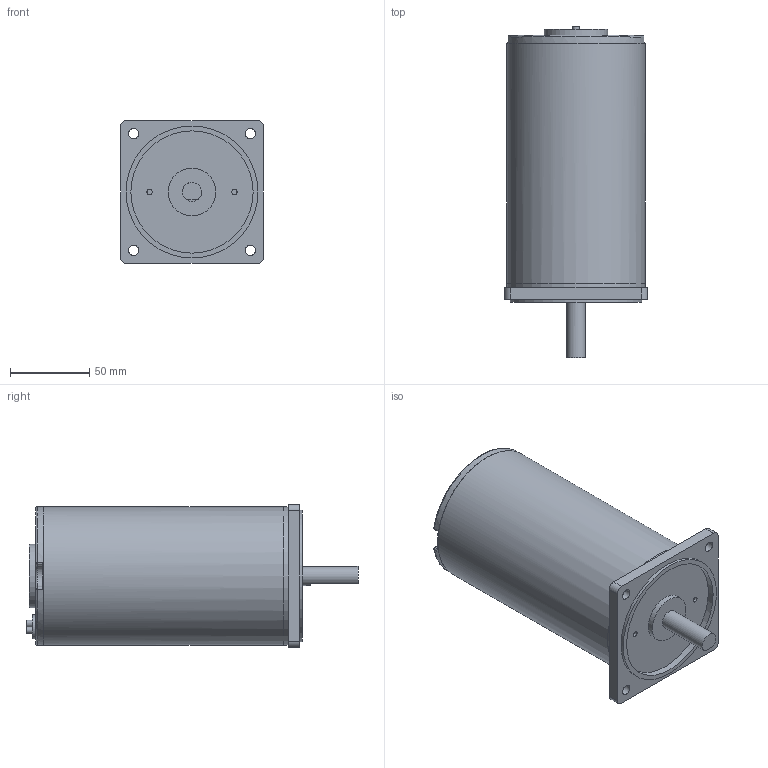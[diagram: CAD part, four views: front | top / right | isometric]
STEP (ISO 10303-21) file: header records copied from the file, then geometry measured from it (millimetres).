
FILE_DESCRIPTION((''),'2;1');
FILE_NAME('E:\2공장-도면\3D\표준형 3D(민규)\step file\DC모터\K9DS200N2.stp','2014-11-24T17:25:45',('AHN'),(''),'Autodesk Inventor 2012','Autodesk Inventor 2012','');
FILE_SCHEMA(('CONFIG_CONTROL_DESIGN'));
Length unit declared in the file: millimetre
Products named in the file (1): K9DS200N2
Bounding box: 90 x 209 x 90 mm (x, y, z)
Volume: 1003843.4 mm3; surface area: 66544.2 mm2
Topology: 1 solids, 1 shells, 66 faces, 140 edges, 86 vertices
Faces by surface type: cylinder 31, plane 27, torus 4, sphere 4
Full cylindrical faces by diameter (mm): 3.4 x2, 4.2 x2, 6.5 x4, 12 x1, 15 x1, 30 x1, 40 x1, 77 x1, 83 x1, 87 x2, 87.1 x1
Entity records: 1710 total; most frequent: DIRECTION 328, CARTESIAN_POINT 269, ORIENTED_EDGE 240, AXIS2_PLACEMENT_3D 141, EDGE_CURVE 120, EDGE_LOOP 101, VERTEX_POINT 82, CIRCLE 74
